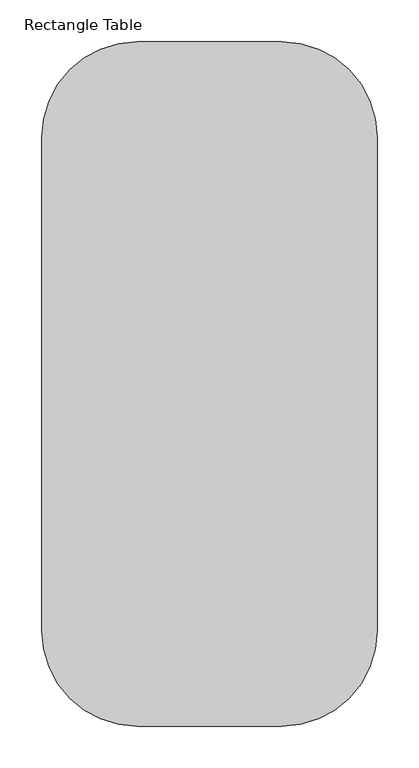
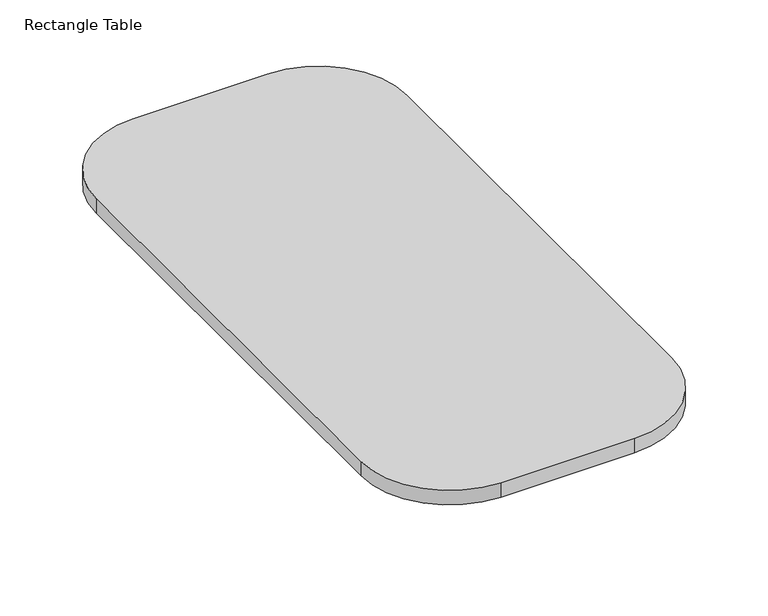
"""IFC4 building model written with IfcOpenShell, lengths in millimetres: furniture geometry, Coalesse_AM_Table_Occasional_Ensemble_Modular : Rectangle Table."""

from ifc_helpers import new_model, si_unit, point, frame, frame_2d, origin, place, context, project, spatial, polyline, circle_curve, trimmed, segment, composite_curve, outline, extrude, source, transform, mapped, element, save


def rectangle_table_269c9989(model_context):
    return source(origin(), model_context, "Body", "SweptSolid", [
        extrude(outline(composite_curve([segment(trimmed(circle_curve(frame_2d((108.865872, 125.0107271)), 5.08), [point((103.785872, 125.0107271))], [point((108.865872, 130.0907271))], False, "CARTESIAN"), True, "CONTINUOUS"), segment(polyline([(108.865872, 130.0907271), (128.9876575, 130.0907271)]), True, "CONTINUOUS"), segment(trimmed(circle_curve(frame_2d((128.9876575, 125.0107271)), 5.08), [point((128.9876575, 130.0907271))], [point((134.0676575, 125.0107271))], False, "CARTESIAN"), True, "CONTINUOUS"), segment(polyline([(134.0676575, 125.0107271), (134.0676575, 75.5475648)]), True, "CONTINUOUS"), segment(trimmed(circle_curve(frame_2d((129.0980339, 75.5475648)), 4.9696236), [point((134.0676575, 75.5475648))], [point((129.0980339, 70.5779413))], False, "CARTESIAN"), True, "CONTINUOUS"), segment(polyline([(129.0980339, 70.5779413), (108.865872, 70.5779413)]), True, "CONTINUOUS"), segment(trimmed(circle_curve(frame_2d((108.865872, 75.6579413)), 5.08), [point((108.865872, 70.5779413))], [point((103.785872, 75.6579413))], False, "CARTESIAN"), True, "CONTINUOUS"), segment(polyline([(103.785872, 75.6579413), (103.785872, 125.0107271)]), True, "CONTINUOUS")], self_intersect=False)), frame((-335.7539124, 0.0, 0.0), z_axis=(1.0, 0.0, 0.0), x_axis=(0.0, 1.0, 0.0)), (0.0, 0.0, 1.0), 246.0385968),
        extrude(outline(composite_curve([segment(trimmed(circle_curve(frame_2d((688.6735965, 125.0107271)), 5.08), [point((683.5935965, 125.0107271))], [point((688.6735965, 130.0907271))], False, "CARTESIAN"), True, "CONTINUOUS"), segment(polyline([(688.6735965, 130.0907271), (708.795382, 130.0907271)]), True, "CONTINUOUS"), segment(trimmed(circle_curve(frame_2d((708.795382, 125.0107271)), 5.08), [point((708.795382, 130.0907271))], [point((713.875382, 125.0107271))], False, "CARTESIAN"), True, "CONTINUOUS"), segment(polyline([(713.875382, 125.0107271), (713.875382, 75.5475648)]), True, "CONTINUOUS"), segment(trimmed(circle_curve(frame_2d((708.9057584, 75.5475648)), 4.9696236), [point((713.875382, 75.5475648))], [point((708.9057584, 70.5779413))], False, "CARTESIAN"), True, "CONTINUOUS"), segment(polyline([(708.9057584, 70.5779413), (688.6735965, 70.5779413)]), True, "CONTINUOUS"), segment(trimmed(circle_curve(frame_2d((688.6735965, 75.6579413)), 5.08), [point((688.6735965, 70.5779413))], [point((683.5935965, 75.6579413))], False, "CARTESIAN"), True, "CONTINUOUS"), segment(polyline([(683.5935965, 75.6579413), (683.5935965, 125.0107271)]), True, "CONTINUOUS")], self_intersect=False)), frame((-335.7539124, 0.0, 0.0), z_axis=(1.0, 0.0, 0.0), x_axis=(0.0, 1.0, 0.0)), (0.0, 0.0, 1.0), 246.0385968),
        extrude(outline(composite_curve([segment(trimmed(circle_curve(frame_2d((-126.5046972, 704.1787629)), 114.3031093), [point((-126.5046972, 818.4818722))], [point((-12.201588, 704.1787629))], False, "CARTESIAN"), True, "CONTINUOUS"), segment(polyline([(-12.201588, 704.1787629), (-12.201588, 114.3031093)]), True, "CONTINUOUS"), segment(trimmed(circle_curve(frame_2d((-126.5046972, 114.3031093)), 114.3031093), [point((-12.201588, 114.3031093))], [point((-126.5046972, 0.0))], False, "CARTESIAN"), True, "CONTINUOUS"), segment(polyline([(-126.5046972, 0.0), (-298.9670833, 0.0)]), True, "CONTINUOUS"), segment(trimmed(circle_curve(frame_2d((-298.9670833, 114.3)), 114.3), [point((-298.9670833, 0.0))], [point((-413.2670833, 114.3))], False, "CARTESIAN"), True, "CONTINUOUS"), segment(polyline([(-413.2670833, 114.3), (-413.2670833, 704.1818722)]), True, "CONTINUOUS"), segment(trimmed(circle_curve(frame_2d((-298.9670833, 704.1818722)), 114.3), [point((-413.2670833, 704.1818722))], [point((-298.9670833, 818.4818722))], False, "CARTESIAN"), True, "CONTINUOUS"), segment(polyline([(-298.9670833, 818.4818722), (-126.5046972, 818.4818722)]), True, "CONTINUOUS")], self_intersect=False)), frame((0.0, 0.0, 131.1254356), z_axis=(0.0, 0.0, 1.0), x_axis=(1.0, 0.0, 0.0)), (0.0, 0.0, 1.0), 19.622158),
    ])


if __name__ == "__main__":
    model = new_model("IFC4")
    model_context = context("Model", 3, world=origin())
    ifc_project = project(units=[si_unit("LENGTHUNIT", "METRE", prefix="MILLI")], contexts=[model_context])
    site = spatial("IfcSite", under=ifc_project)
    building = spatial("IfcBuilding", under=site)
    placement = place(None, origin())
    rectangle_table_shape = rectangle_table_269c9989(model_context)
    element("IfcFurniture", 1, ObjectType="Coalesse_AM_Table_Occasional_Ensemble_Modular : Rectangle Table", at=placement, inside=building, context=model_context, shape_type="MappedRepresentation", body=[
        mapped(rectangle_table_shape, transform((0.0, 0.0, 0.0), x_axis=(1.0, 0.0, 0.0), y_axis=(0.0, 1.0, 0.0), z_axis=(0.0, 0.0, 1.0))),
    ])
    save(model, "model.ifc")
